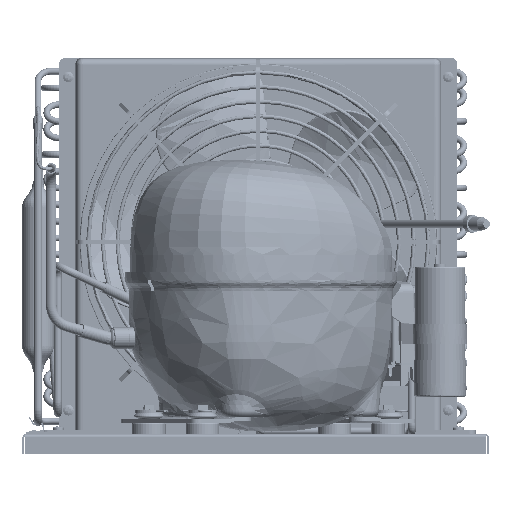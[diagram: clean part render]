
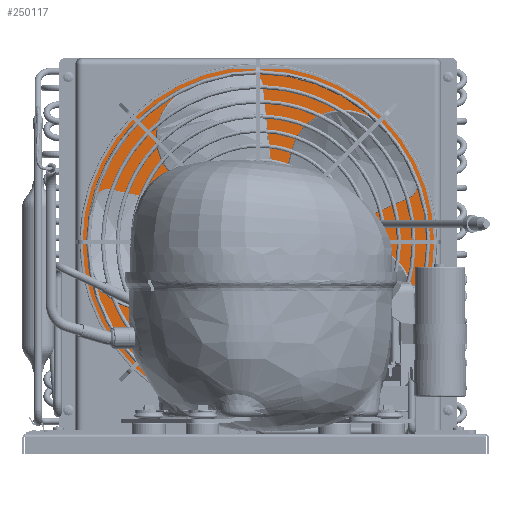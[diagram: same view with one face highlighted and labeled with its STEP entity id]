
A CAD part, front view. The second image highlights one B-rep face of the part: STEP entity #250117.
In plain terms, the highlighted planar face has unit normal (0, -1, 0) as drawn and (-1, 0, 0) by its records, which use the part's own axes.
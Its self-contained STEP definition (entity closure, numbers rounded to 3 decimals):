
#93341=ORIENTED_EDGE('',*,*,#147752,.T.);
#93342=ORIENTED_EDGE('',*,*,#147753,.F.);
#93343=ORIENTED_EDGE('',*,*,#147754,.F.);
#93344=ORIENTED_EDGE('',*,*,#147755,.T.);
#147752=EDGE_CURVE('',#175923,#175924,#194470,.T.);
#147753=EDGE_CURVE('',#175925,#175924,#194471,.T.);
#147754=EDGE_CURVE('',#175926,#175925,#194472,.T.);
#147755=EDGE_CURVE('',#175926,#175923,#194473,.T.);
#175923=VERTEX_POINT('',#345386);
#175924=VERTEX_POINT('',#345387);
#175925=VERTEX_POINT('',#345389);
#175926=VERTEX_POINT('',#345391);
#194470=LINE('',#345385,#205518);
#194471=LINE('',#345388,#205519);
#194472=LINE('',#345390,#205520);
#194473=LINE('',#345392,#205521);
#205518=VECTOR('',#283881,1000.);
#205519=VECTOR('',#283882,1000.);
#205520=VECTOR('',#283883,1000.);
#205521=VECTOR('',#283884,1000.);
#217222=EDGE_LOOP('',(#93341,#93342,#93343,#93344));
#231346=FACE_BOUND('',#217222,.T.);
#243873=PLANE('',#262491);
#250117=ADVANCED_FACE('',(#231346),#243873,.F.);
#262491=AXIS2_PLACEMENT_3D('',#345384,#283879,#283880);
#283879=DIRECTION('',(1.,0.,0.));
#283880=DIRECTION('',(0.,0.,-1.));
#283881=DIRECTION('',(0.,0.,-1.));
#283882=DIRECTION('',(0.,1.,0.));
#283883=DIRECTION('',(0.,0.,-1.));
#283884=DIRECTION('',(0.,1.,0.));
#345384=CARTESIAN_POINT('',(-18.75,-135.,137.5));
#345385=CARTESIAN_POINT('',(-18.75,135.,137.5));
#345386=CARTESIAN_POINT('',(-18.75,135.,137.5));
#345387=CARTESIAN_POINT('',(-18.75,135.,-137.5));
#345388=CARTESIAN_POINT('',(-18.75,-135.,-137.5));
#345389=CARTESIAN_POINT('',(-18.75,-135.,-137.5));
#345390=CARTESIAN_POINT('',(-18.75,-135.,137.5));
#345391=CARTESIAN_POINT('',(-18.75,-135.,137.5));
#345392=CARTESIAN_POINT('',(-18.75,-135.,137.5));
